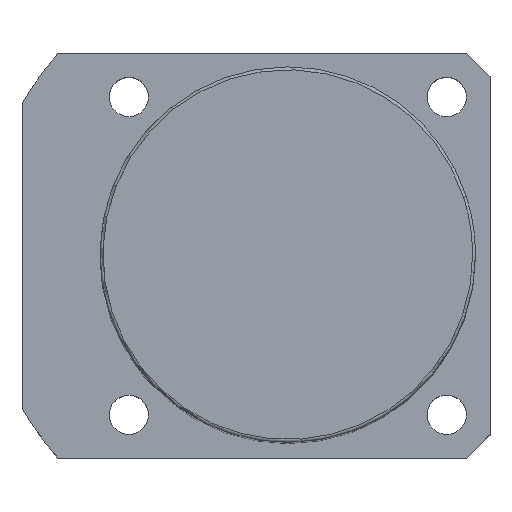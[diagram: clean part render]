
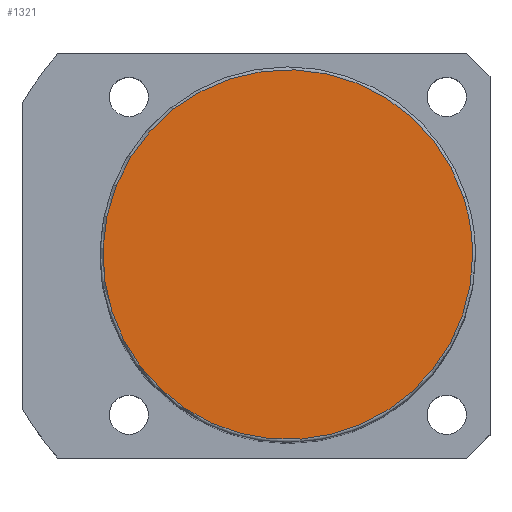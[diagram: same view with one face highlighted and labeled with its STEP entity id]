
A CAD part, top view. The second image highlights one B-rep face of the part: STEP entity #1321.
In plain terms, the highlighted planar face has unit normal (0, 0, 1).
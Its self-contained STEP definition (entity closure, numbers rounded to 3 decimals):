
#1287=CARTESIAN_POINT('',(32.0,0.0,136.0));
#1288=VERTEX_POINT('',#1287);
#1289=CARTESIAN_POINT('',(30.434,9.889,136.0));
#1290=VERTEX_POINT('',#1289);
#1291=CARTESIAN_POINT('',(0.0,0.0,136.0));
#1292=DIRECTION('',(0.0,0.0,1.0));
#1293=DIRECTION('',(1.0,0.0,0.0));
#1294=AXIS2_PLACEMENT_3D('',#1291,#1292,#1293);
#1295=CIRCLE('',#1294,32.0);
#1296=EDGE_CURVE('no 1832',#1288,#1290,#1295,.T.);
#1297=ORIENTED_EDGE('',*,*,#1296,.T.);
#1298=CARTESIAN_POINT('',(-30.434,-9.889,136.0));
#1299=VERTEX_POINT('',#1298);
#1300=CARTESIAN_POINT('',(0.0,0.0,136.0));
#1301=DIRECTION('',(0.0,0.0,1.0));
#1302=DIRECTION('',(1.0,0.0,0.0));
#1303=AXIS2_PLACEMENT_3D('',#1300,#1301,#1302);
#1304=CIRCLE('',#1303,32.0);
#1305=EDGE_CURVE('no 1838',#1290,#1299,#1304,.T.);
#1306=ORIENTED_EDGE('',*,*,#1305,.T.);
#1307=CARTESIAN_POINT('',(0.0,0.0,136.0));
#1308=DIRECTION('',(0.0,0.0,1.0));
#1309=DIRECTION('',(1.0,0.0,0.0));
#1310=AXIS2_PLACEMENT_3D('',#1307,#1308,#1309);
#1311=CIRCLE('',#1310,32.0);
#1312=EDGE_CURVE('no 1842',#1299,#1288,#1311,.T.);
#1313=ORIENTED_EDGE('',*,*,#1312,.T.);
#1314=EDGE_LOOP('',(#1297,#1306,#1313));
#1315=FACE_OUTER_BOUND('',#1314,.T.);
#1316=CARTESIAN_POINT('',(0.0,0.0,136.0));
#1317=DIRECTION('',(0.0,0.0,1.0));
#1318=DIRECTION('',(1.0,0.0,0.0));
#1319=AXIS2_PLACEMENT_3D('',#1316,#1317,#1318);
#1320=PLANE('',#1319);
#1321=ADVANCED_FACE('no 1823',(#1315),#1320,.T.);
